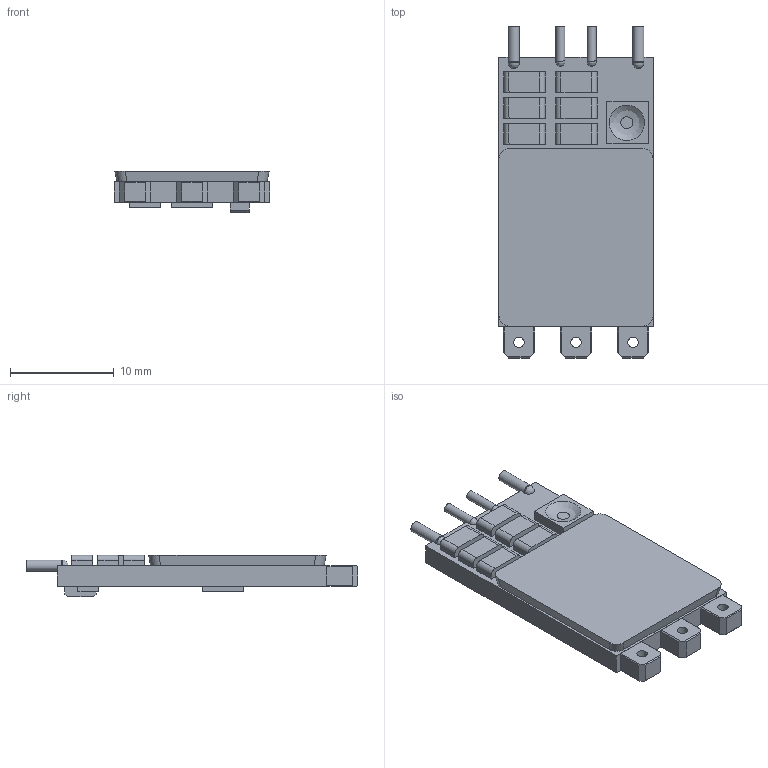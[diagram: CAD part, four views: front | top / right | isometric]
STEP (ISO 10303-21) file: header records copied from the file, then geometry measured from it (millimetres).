
FILE_DESCRIPTION(/* description */ (''),/* implementation_level */ '2;1');
FILE_NAME(/* name */ 'BLHeli 45A v4.step',/* time_stamp */ '2023-12-18T15:11:01+01:00',/* author */ (''),/* organization */ (''),/* preprocessor_version */ 'ST-DEVELOPER v20',/* originating_system */ 'Autodesk Translation Framework v12.14.0.127',/* authorisation */ '');
FILE_SCHEMA (('AUTOMOTIVE_DESIGN { 1 0 10303 214 3 1 1 }'));
Length unit declared in the file: millimetre
Products named in the file (1): BLHeli 45A
Bounding box: 15 x 32 x 4 mm (x, y, z)
Volume: 1162.4 mm3; surface area: 1298.7 mm2
Topology: 4 solids, 4 shells, 147 faces, 382 edges, 252 vertices
Faces by surface type: plane 117, cylinder 23, bspline 7
Full cylindrical faces by diameter (mm): 0.867 x1, 0.868 x1, 1 x3, 1.08 x2
Entity records: 4715 total; most frequent: CARTESIAN_POINT 1026, ORIENTED_EDGE 756, DIRECTION 711, EDGE_CURVE 378, LINE 307, VECTOR 307, VERTEX_POINT 252, AXIS2_PLACEMENT_3D 202
